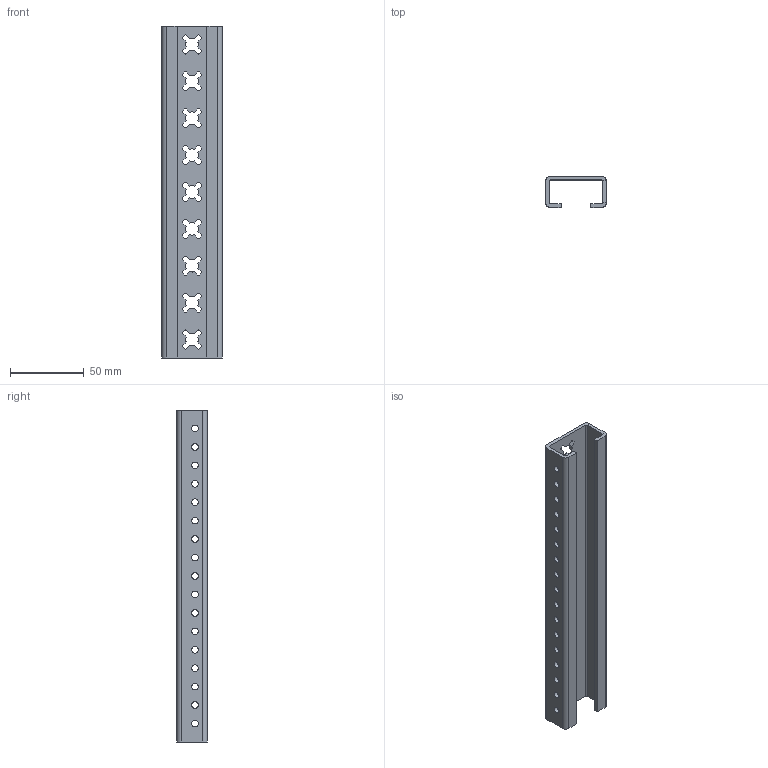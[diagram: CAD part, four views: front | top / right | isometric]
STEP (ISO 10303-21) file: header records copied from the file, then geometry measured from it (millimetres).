
FILE_DESCRIPTION(('CAx-IF Rec.Pracs.---Model Styling and Organization---1.2---2011-12-15','CAx-IF Rec.Pracs.---Geometric and Assembly Validation Properties---4.1---2014-06-16','CAx-IF Rec.Pracs.---PMI Polyline Presentation---2.0---2013-05-24'),'2;1');
FILE_NAME('R5BBMR225.stp','2021-05-06T03:16:09+03:00',(''),(''),'STEP Interface 4.4 by CT CoreTechnologie','3D_Evolution4.4 by CT CoreTechnologie','');
FILE_SCHEMA(('AUTOMOTIVE_DESIGN { 1 0 10303 214 1 1 1 1 }'));
Length unit declared in the file: millimetre
Products named in the file (2): R5BBMR; RB.1308.00.00.0_-01
Assembly tree (1 placements, depth 2):
  R5BBMR
    RB.1308.00.00.0_-01
Bounding box: 41 x 21 x 225 mm (x, y, z)
Surface area: 41949.2 mm2 (no closed solid volume)
Topology: 0 solids, 1 shells, 337 faces, 997 edges, 662 vertices
Faces by surface type: cylinder 211, plane 126
Entity records: 11674 total; most frequent: DIRECTION 2097, CARTESIAN_POINT 1998, ORIENTED_EDGE 1994, EDGE_CURVE 997, AXIS2_PLACEMENT_3D 761, VERTEX_POINT 662, VECTOR 575, LINE 575
